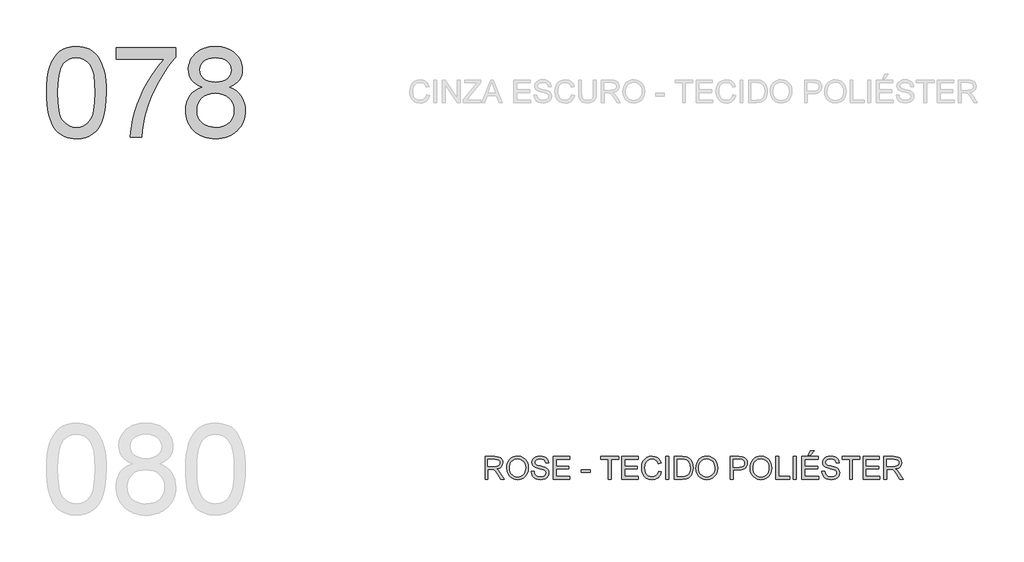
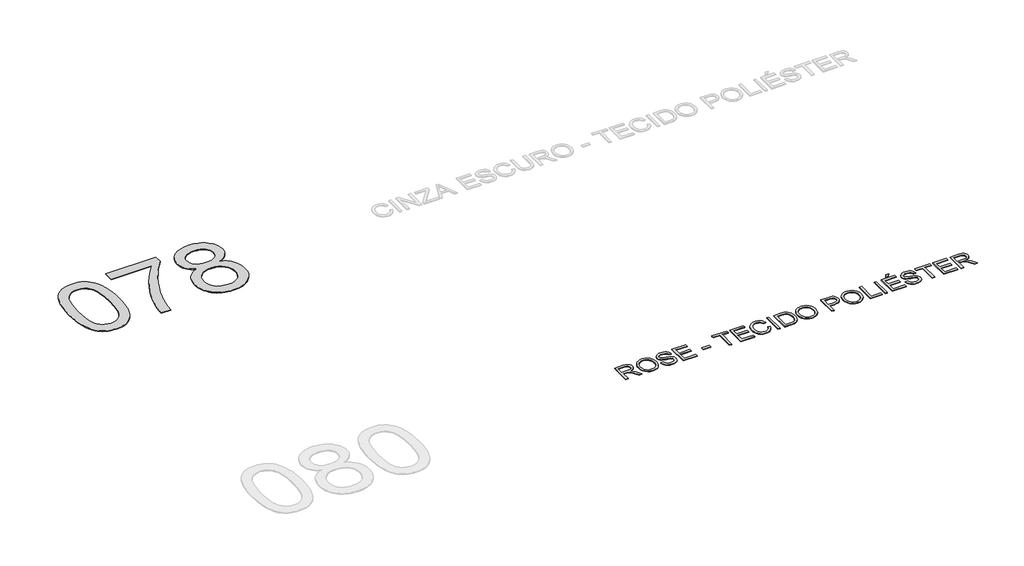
# One storey, part 4 of 67: 2 proxies.
"""IFC4 building model written with IfcOpenShell, lengths in millimetres."""

from ifc_helpers import new_model, si_unit, origin, origin_with_axes, place, context, project, spatial, polyline, outline, extrude, element, save

model = new_model("IFC4")

# Units and contexts
model_context = context("Model", 3, world=origin())
ifc_project = project(units=[si_unit("LENGTHUNIT", "METRE", prefix="MILLI")], contexts=[model_context])

# Site, building, storey
site = spatial("IfcSite", under=ifc_project)
building = spatial("IfcBuilding", under=site)
storey = spatial("IfcBuildingStorey", under=building, Name="Marelli - Linha COLAB - Planta Baixa", Elevation=0.0)

# Proxies
placement = place(None, origin())
element("IfcBuildingElementProxy", 1, Name="1200mm Arial", ObjectType="1200mm Arial", at=placement, inside=storey, context=model_context, shape_type="SweptSolid", body=[
    extrude(outline(polyline([(-25181.1313792, -104895.792664), (-25178.3630672, -104794.4319773), (-25170.0581311, -104702.8385576), (-25156.2165711, -104621.0124048), (-25136.838387, -104548.953519), (-25112.0063523, -104486.073289), (-25081.8032405, -104431.7831035), (-25046.2290516, -104386.0829627), (-25005.2837855, -104348.9728664), (-24958.8294866, -104320.2596767), (-24906.728199, -104299.7502555), (-24848.9799228, -104287.4446027), (-24785.584658, -104283.3427185), (-24737.9439396, -104285.7707396), (-24692.7312424, -104293.0548031), (-24649.9465664, -104305.194909), (-24609.5899115, -104322.1910572), (-24572.6361651, -104343.7581391), (-24540.0602144, -104369.6110463), (-24511.8620595, -104399.7497788), (-24488.0417003, -104434.1743365), (-24467.4035204, -104472.7467637), (-24448.7519032, -104515.3291046), (-24417.4083572, -104612.5235278), (-24405.4337983, -104669.6831928), (-24396.8805419, -104735.9479371), (-24391.7485881, -104811.3177609), (-24390.0379368, -104895.792664), (-24392.7786576, -104996.5095573), (-24401.0008202, -105087.6431245), (-24414.7044246, -105169.1933658), (-24433.8894706, -105241.1602811), (-24458.5283672, -105304.0681023), (-24488.5935233, -105358.4410612), (-24524.0849388, -105404.2791578), (-24565.0026137, -105441.5823921), (-24611.5120949, -105470.4887199), (-24663.7789294, -105491.1360968), (-24721.8031171, -105503.524523), (-24785.584658, -105507.6539984), (-24828.2589694, -105505.8605737), (-24868.5788361, -105500.4802995), (-24906.544258, -105491.5131759), (-24942.1552351, -105478.9592028), (-24975.4117675, -105462.8183803), (-25006.3138551, -105443.0907083), (-25034.8614979, -105419.7761868), (-25061.054696, -105392.8748159), (-25089.1976686, -105350.2786794), (-25113.5882449, -105302.0999336), (-25134.2264248, -105248.3385785), (-25151.1122084, -105188.9946142), (-25164.2455956, -105124.0680406), (-25173.6265865, -105053.5588577), (-25179.255181, -104977.4670655), (-25181.1313792, -104895.792664)]), holes=[polyline([(-25030.446914, -104895.4983584), (-25026.03233, -105026.4919399), (-25012.7885782, -105132.5247279), (-25002.8557643, -105176.1808245), (-24990.7156585, -105213.5967226), (-24976.3682607, -105244.7724225), (-24959.8135709, -105269.7079239), (-24922.4367602, -105307.884878), (-24880.9396711, -105335.1541309), (-24835.3223037, -105351.5156826), (-24785.584658, -105356.9695332), (-24735.8470122, -105351.4972885), (-24690.2296448, -105335.0805545), (-24648.7325558, -105307.7193311), (-24611.3557451, -105269.4136183), (-24594.8010553, -105244.418336), (-24580.4536575, -105213.2104465), (-24568.3135516, -105175.7899498), (-24558.3807378, -105132.1568459), (-24545.1369859, -105026.2528166), (-24540.722402, -104895.4983584), (-24544.9898331, -104767.9720648), (-24557.7921266, -104663.8062779), (-24567.3938467, -104620.4835744), (-24579.1292823, -104583.0009976), (-24592.9984335, -104551.3585475), (-24609.0013003, -104525.5562241), (-24645.7527116, -104485.5122689), (-24687.7280473, -104456.9094438), (-24734.9273073, -104439.7477487), (-24787.3504916, -104434.0271837), (-24836.8306199, -104439.067167), (-24881.6754351, -104454.187117), (-24921.8849372, -104479.3870337), (-24957.4591261, -104514.666917), (-24974.5656389, -104543.2145599), (-24989.3912833, -104577.2068562), (-25001.9360594, -104616.6438061), (-25012.199967, -104661.5254095), (-25025.8851772, -104767.6225769), (-25030.446914, -104895.4983584)])]), origin_with_axes(), (0.0, 0.0, 1.0), 10.0),
    extrude(outline(polyline([(-24258.1890297, -104452.8627418), (-24258.1890297, -104302.1782766), (-23467.0955873, -104302.1782766), (-23467.0955873, -104424.0207934), (-23523.6114588, -104490.5246611), (-23579.8514188, -104566.7222194), (-23635.8154673, -104652.6134682), (-23691.5036043, -104748.1984076), (-23743.8991975, -104849.3383651), (-23789.9856144, -104951.8946683), (-23829.7628552, -105055.8673172), (-23863.2309197, -105161.2563118), (-23883.1701238, -105237.7941609), (-23899.1362024, -105317.9004653), (-23911.1291555, -105401.5752251), (-23919.1489829, -105488.8184403), (-24069.8334482, -105488.8184403), (-24065.0969675, -105414.8189769), (-24053.5362758, -105333.4986619), (-24035.1513731, -105244.8574952), (-24009.9422594, -105148.8954767), (-23978.2032402, -105050.1651463), (-23940.2286213, -104953.2190435), (-23896.0184025, -104858.0571684), (-23845.5725839, -104764.679521), (-23791.1628368, -104675.8268221), (-23735.0608326, -104594.2397926), (-23677.2665711, -104519.9184325), (-23617.7800525, -104452.8627418), (-24258.1890297, -104452.8627418)])), origin_with_axes(), (0.0, 0.0, 1.0), 10.0),
    extrude(outline(polyline([(-23115.6947055, -104824.8650154), (-23159.0404016, -104806.7652212), (-23196.371227, -104785.1337599), (-23227.6871819, -104759.9706314), (-23252.9882661, -104731.2758358), (-23272.4952089, -104699.3252845), (-23286.4287394, -104664.3948891), (-23294.7888578, -104626.4846495), (-23297.5755639, -104585.5945657), (-23291.505511, -104524.1398784), (-23283.9179448, -104495.3301197), (-23273.2953522, -104467.7987509), (-23259.6377331, -104441.545772), (-23242.9450876, -104416.571183), (-23200.4547172, -104370.4571749), (-23175.1674285, -104350.0397242), (-23147.865986, -104332.3446002), (-23118.5503895, -104317.371803), (-23087.2206391, -104305.1213326), (-23018.5186765, -104288.787372), (-22941.7600982, -104283.3427185), (-22864.6336379, -104288.9161307), (-22795.4166405, -104305.6363674), (-22763.7741904, -104318.1765449), (-22734.109106, -104333.5034285), (-22706.4213873, -104351.6170182), (-22680.7110344, -104372.5173141), (-22637.4481118, -104419.5326331), (-22620.4519636, -104444.8613085), (-22606.5460242, -104471.4039944), (-22595.7302935, -104499.1606909), (-22588.0047716, -104528.1313981), (-22583.3694585, -104558.3161158), (-22581.8243541, -104589.7148441), (-22584.574272, -104629.160991), (-22592.8240257, -104665.9767817), (-22606.5736153, -104700.1622161), (-22625.8230407, -104731.7172942), (-22650.6642724, -104760.2189518), (-22681.189281, -104785.2441245), (-22717.3980664, -104806.7928124), (-22759.2906286, -104824.8650154), (-22709.764515, -104845.9354566), (-22666.5475776, -104872.6528865), (-22629.6398164, -104905.0173051), (-22599.0412315, -104943.0287122), (-22575.0277342, -104985.8409794), (-22557.8752362, -105032.607978), (-22547.5837374, -105083.3297081), (-22544.1532378, -105138.0061697), (-22545.854692, -105176.3670647), (-22550.9590547, -105213.1644613), (-22559.4663258, -105248.3983594), (-22571.3765054, -105282.068759), (-22586.6895935, -105314.1756601), (-22605.40559, -105344.7190628), (-22627.5244949, -105373.6989669), (-22653.0463083, -105401.1153726), (-22681.3456308, -105426.085363), (-22711.797063, -105447.7260214), (-22744.4006048, -105466.0373477), (-22779.1562563, -105481.019342), (-22816.0640175, -105492.6720042), (-22855.1238883, -105500.9953343), (-22896.3358688, -105505.9893324), (-22939.699959, -105507.6539984), (-22983.0640492, -105505.9824346), (-23024.2760297, -105500.9677432), (-23063.3359005, -105492.6099241), (-23100.2436617, -105480.9089774), (-23134.9993132, -105465.864903), (-23167.602855, -105447.4777011), (-23198.0542872, -105425.7473715), (-23226.3536096, -105400.6739142), (-23251.875423, -105373.1034579), (-23273.994328, -105343.8821312), (-23292.7103245, -105313.009934), (-23308.0234126, -105280.4868664), (-23319.9335922, -105246.3129283), (-23328.4408633, -105210.4881198), (-23333.545226, -105173.0124408), (-23335.2466802, -105133.8858913), (-23331.6782249, -105076.7170293), (-23320.9728588, -105024.4042096), (-23303.130582, -104976.9474322), (-23278.1513946, -104934.3466971), (-23246.5871194, -104897.3745566), (-23208.9895795, -104866.8035628), (-23165.3587748, -104842.6337157), (-23115.6947055, -104824.8650154)]), holes=[polyline([(-23146.8910987, -104590.0091496), (-23143.5525696, -104624.553269), (-23133.5369822, -104655.7864504), (-23116.8443367, -104683.7086938), (-23093.474633, -104708.3199993), (-23063.7221766, -104728.4063562), (-23027.8812732, -104742.753754), (-22985.9519228, -104751.3621927), (-22937.9341254, -104754.2316723), (-22891.1027474, -104751.3805868), (-22850.083905, -104742.8273304), (-22814.877598, -104728.5719031), (-22785.4838266, -104708.6143049), (-22762.3072609, -104684.5180342), (-22745.7525711, -104657.8465896), (-22735.8197573, -104628.5999709), (-22732.5088193, -104596.7781784), (-22735.9301219, -104563.714784), (-22746.1940295, -104533.3921106), (-22763.3005423, -104505.810158), (-22787.2496602, -104480.9689263), (-22817.3056192, -104460.4319139), (-22852.7326553, -104445.7626193), (-22893.5307686, -104436.9610426), (-22939.699959, -104434.0271837), (-22986.2278343, -104436.8966633), (-23027.2190856, -104445.5051019), (-23062.6737129, -104459.8524998), (-23092.5917162, -104479.9388567), (-23116.347696, -104504.0351274), (-23133.3162531, -104530.4122664), (-23143.4973873, -104559.0702739), (-23146.8910987, -104590.0091496)]), polyline([(-23184.562215, -105128.5883906), (-23182.9895195, -105157.6418712), (-23178.2714329, -105186.2354992), (-23159.3990865, -105242.0431979), (-23144.3986982, -105267.9328933), (-23124.5606616, -105290.7139859), (-23099.8849767, -105310.3864756), (-23070.3716437, -105326.9503624), (-23038.1819691, -105340.0837496), (-23005.4772597, -105349.4647405), (-22972.2575156, -105355.093335), (-22938.5227366, -105356.9695332), (-22884.0394131, -105353.0239988), (-22835.9572364, -105341.1873956), (-22794.2762063, -105321.4597236), (-22758.996323, -105293.8409828), (-22730.9269267, -105260.133795), (-22710.877358, -105222.140782), (-22698.8476167, -105179.8619437), (-22694.837703, -105133.2972801), (-22698.9763754, -105085.9876555), (-22711.3923928, -105042.9454621), (-22732.085755, -105004.1706998), (-22761.0564621, -104969.6633687), (-22797.2928387, -104941.336455), (-22839.7832091, -104921.1029453), (-22888.5275735, -104908.9628395), (-22943.5259317, -104904.9161375), (-22997.2091119, -104908.9076572), (-23044.6566922, -104920.8822161), (-23085.8686727, -104940.8398143), (-23120.8450534, -104968.7804519), (-23148.7213116, -105002.7175659), (-23168.6329246, -105040.6645937), (-23180.5798924, -105082.6215353), (-23184.562215, -105128.5883906)])]), origin_with_axes(), (0.0, 0.0, 1.0), 10.0),
])
element("IfcBuildingElementProxy", 2, Name="300mm Arial", ObjectType="300mm Arial", at=placement, inside=storey, context=model_context, shape_type="SweptSolid", body=[
    extrude(outline(polyline([(-19362.2049444, -110030.5663201), (-19362.2049444, -109729.1973896), (-19232.3426001, -109729.1973896), (-19197.4397958, -109731.2299376), (-19172.0467411, -109737.3275817), (-19153.4870944, -109748.5847708), (-19139.0845143, -109766.0959537), (-19129.8414792, -109787.8101885), (-19126.7604675, -109811.6765329), (-19131.8648301, -109841.3646099), (-19147.1779182, -109865.9759154), (-19158.7776973, -109876.0052983), (-19173.1595841, -109884.0205273), (-19210.2696804, -109894.0085235), (-19188.8589482, -109910.1217548), (-19158.3247426, -109948.8965171), (-19108.0720621, -110030.5663201), (-19151.8500195, -110030.5663201), (-19191.0662402, -109968.0999573), (-19219.3931538, -109926.750021), (-19239.2955698, -109907.2154871), (-19257.2114229, -109900.0417882), (-19279.0636135, -109898.717413), (-19324.5338281, -109898.717413), (-19324.5338281, -110030.5663201), (-19362.2049444, -110030.5663201)]), holes=[polyline([(-19324.5338281, -109861.0462967), (-19240.2152748, -109861.0462967), (-19215.9994424, -109859.7127245), (-19197.2098695, -109855.7120078), (-19183.0648068, -109848.7774322), (-19172.782505, -109838.6422832), (-19166.5193141, -109826.3826157), (-19164.4315838, -109813.0744845), (-19168.4139064, -109794.6987789), (-19180.3608741, -109779.8915286), (-19200.9162806, -109770.1242616), (-19230.7239193, -109766.8685059), (-19324.5338281, -109766.8685059), (-19324.5338281, -109861.0462967)])]), origin_with_axes(), (0.0, 0.0, 1.0), 10.0),
    extrude(outline(polyline([(-19074.9626825, -109883.8549804), (-19072.4518879, -109848.5061192), (-19064.9195041, -109817.213157), (-19052.365531, -109789.9760937), (-19034.7899687, -109766.7949295), (-19013.2458793, -109748.2858666), (-18988.7863252, -109735.0651074), (-18961.4113062, -109727.1326519), (-18931.1208224, -109724.4885001), (-18891.591902, -109729.454907), (-18856.1464718, -109744.3541278), (-18826.7159122, -109768.1376988), (-18805.2316037, -109799.7571563), (-18792.0982164, -109837.68579), (-18787.7204207, -109880.3968896), (-18792.3281427, -109923.6782064), (-18806.1513087, -109962.140269), (-18828.4265635, -109993.8149087), (-18858.390552, -110016.733957), (-18893.5324796, -110030.6398965), (-18931.3415516, -110035.2752096), (-18971.4774773, -110030.1524528), (-19007.1252426, -110014.7841825), (-19036.4822258, -109990.5591531), (-19057.7458052, -109958.8661192), (-19070.6584632, -109922.3998164), (-19074.9626825, -109883.8549804)]), holes=[polyline([(-19037.2915662, -109884.2228624), (-19035.4084703, -109909.1974513), (-19029.7591824, -109931.3669401), (-19020.3437026, -109950.7313286), (-19007.1620308, -109967.2906169), (-18991.1384707, -109980.5527628), (-18973.1973256, -109990.0257242), (-18953.3385957, -109995.709501), (-18931.5622808, -109997.6040933), (-18909.4134854, -109995.6911069), (-18889.3202307, -109989.9521478), (-18871.2825166, -109980.3872159), (-18855.3003432, -109966.9963113), (-18842.2152405, -109950.0875351), (-18832.8687386, -109929.9689885), (-18827.2608374, -109906.6406715), (-18825.391537, -109880.102584), (-18828.5921104, -109846.7540812), (-18838.1938304, -109817.9305269), (-18853.9483769, -109794.358488), (-18875.6074293, -109776.7645316), (-18901.7362481, -109765.8108452), (-18930.9000932, -109762.1596164), (-18951.9199507, -109763.9185522), (-18971.422295, -109769.1953595), (-18989.407126, -109777.9900385), (-19005.8744438, -109790.302589), (-19019.6194349, -109806.7262208), (-19029.4372856, -109827.8541437), (-19035.3279961, -109853.6863575), (-19037.2915662, -109884.2228624)])]), origin_with_axes(), (0.0, 0.0, 1.0), 10.0),
    extrude(outline(polyline([(-18750.0493044, -109926.9707502), (-18712.3781881, -109926.9707502), (-18708.0555746, -109947.8756446), (-18700.2380822, -109964.6786547), (-18688.0427941, -109978.0143771), (-18670.5867934, -109988.517408), (-18649.2496377, -109995.332422), (-18625.4108844, -109997.6040933), (-18604.4232166, -109995.884245), (-18586.0475109, -109990.7247), (-18571.1574872, -109982.5577197), (-18560.6268651, -109971.8155654), (-18554.3636741, -109959.4823215), (-18552.2759438, -109946.5420724), (-18553.8394423, -109933.932917), (-18558.5299377, -109923.0344129), (-18568.0580814, -109913.7361954), (-18584.1345246, -109905.9279001), (-18638.98573, -109891.5437141), (-18674.9921803, -109882.0247675), (-18698.0307903, -109872.9656733), (-18716.783575, -109860.2921386), (-18730.0733121, -109844.9330653), (-18737.991972, -109827.2195472), (-18740.6315253, -109807.4826782), (-18737.3665726, -109785.4189555), (-18727.5717145, -109764.845155), (-18711.5044683, -109747.4075484), (-18689.4223516, -109734.7524077), (-18662.9164538, -109727.054477), (-18633.5778647, -109724.4885001), (-18601.7928603, -109727.1740386), (-18573.9809815, -109735.2306543), (-18551.1355096, -109748.4928003), (-18534.249726, -109766.7949295), (-18523.5627541, -109788.9966079), (-18519.313717, -109813.9574013), (-18556.9848333, -109813.9574013), (-18563.9010148, -109791.4798114), (-18578.321989, -109775.2562154), (-18600.8547612, -109765.4337661), (-18632.1063367, -109762.1596164), (-18664.0936762, -109765.3969779), (-18686.0378372, -109775.1090626), (-18698.7297661, -109789.4012781), (-18702.960409, -109806.3790322), (-18699.9621707, -109820.8551887), (-18690.967456, -109832.4986539), (-18669.7038766, -109842.9097143), (-18629.4575864, -109853.541504), (-18587.9237091, -109863.6398648), (-18562.7973688, -109872.4506385), (-18541.3222574, -109886.1174547), (-18526.3402631, -109902.9848441), (-18517.5386864, -109922.868866), (-18514.6048275, -109945.5855792), (-18517.9801448, -109968.8081301), (-18528.1060967, -109990.6511236), (-18544.568816, -110009.4498935), (-18566.9544354, -110023.539774), (-18593.8742004, -110032.3413507), (-18623.9393564, -110035.2752096), (-18660.8471176, -110032.1114244), (-18691.2249734, -110022.620069), (-18715.4224116, -110006.764355), (-18733.7889202, -109984.5074943), (-18745.5795381, -109957.3945912), (-18750.0493044, -109926.9707502)])), origin_with_axes(), (0.0, 0.0, 1.0), 10.0),
    extrude(outline(polyline([(-18458.098153, -110030.5663201), (-18458.098153, -109729.1973896), (-18241.4892343, -109729.1973896), (-18241.4892343, -109766.8685059), (-18420.4270367, -109766.8685059), (-18420.4270367, -109856.3374072), (-18250.9070133, -109856.3374072), (-18250.9070133, -109894.0085235), (-18420.4270367, -109894.0085235), (-18420.4270367, -109992.8952038), (-18236.7803447, -109992.8952038), (-18236.7803447, -110030.5663201), (-18458.098153, -110030.5663201)])), origin_with_axes(), (0.0, 0.0, 1.0), 10.0),
    extrude(outline(polyline([(-18086.0958795, -109941.0974188), (-18086.0958795, -109903.4263025), (-17968.373641, -109903.4263025), (-17968.373641, -109941.0974188), (-18086.0958795, -109941.0974188)])), origin_with_axes(), (0.0, 0.0, 1.0), 10.0),
    extrude(outline(polyline([(-17728.2202746, -110030.5663201), (-17728.2202746, -109766.8685059), (-17827.1069549, -109766.8685059), (-17827.1069549, -109729.1973896), (-17591.662478, -109729.1973896), (-17591.662478, -109766.8685059), (-17690.5491583, -109766.8685059), (-17690.5491583, -110030.5663201), (-17728.2202746, -110030.5663201)])), origin_with_axes(), (0.0, 0.0, 1.0), 10.0),
    extrude(outline(polyline([(-17549.2824721, -110030.5663201), (-17549.2824721, -109729.1973896), (-17332.6735534, -109729.1973896), (-17332.6735534, -109766.8685059), (-17511.6113558, -109766.8685059), (-17511.6113558, -109856.3374072), (-17342.0913324, -109856.3374072), (-17342.0913324, -109894.0085235), (-17511.6113558, -109894.0085235), (-17511.6113558, -109992.8952038), (-17327.9646638, -109992.8952038), (-17327.9646638, -110030.5663201), (-17549.2824721, -110030.5663201)])), origin_with_axes(), (0.0, 0.0, 1.0), 10.0),
    extrude(outline(polyline([(-17059.5579602, -109923.4390831), (-17021.8868438, -109933.1511677), (-17029.3410528, -109956.5783531), (-17039.2692681, -109977.0486868), (-17051.6714899, -109994.5621691), (-17066.5477181, -110009.1187997), (-17083.5622603, -110020.5622291), (-17102.3794244, -110028.7361071), (-17122.9992102, -110033.640434), (-17145.4216178, -110035.2752096), (-17189.1168018, -110030.3271968), (-17223.817271, -110015.4831583), (-17250.4151393, -109991.2581289), (-17269.8025204, -109958.1671434), (-17281.6391236, -109919.2636224), (-17285.584658, -109877.6009865), (-17281.1240888, -109833.6574821), (-17267.7423812, -109795.7104543), (-17246.1385111, -109764.9647166), (-17217.0114541, -109742.6250824), (-17182.4673347, -109729.0226457), (-17144.6122774, -109724.4885001), (-17103.3083264, -109730.3562179), (-17085.3395902, -109737.6908652), (-17069.1596802, -109747.9593714), (-17055.0353109, -109760.8904235), (-17043.2331966, -109776.2127086), (-17026.5957334, -109814.0309777), (-17064.2668497, -109823.0072984), (-17077.3266605, -109795.5357104), (-17095.1689373, -109776.6909552), (-17118.0144092, -109765.7924511), (-17146.0838054, -109762.1596164), (-17178.4390269, -109766.1879242), (-17205.018501, -109778.2728478), (-17225.1876314, -109797.1451941), (-17238.3118216, -109821.5357704), (-17245.5131117, -109849.1085259), (-17247.9135417, -109877.5274101), (-17245.0716533, -109912.3290468), (-17236.545988, -109942.421794), (-17222.0146492, -109966.6560205), (-17201.1557401, -109983.8820949), (-17176.1489615, -109994.1735937), (-17149.1740142, -109997.6040933), (-17117.7293006, -109992.931992), (-17091.5269055, -109978.9156879), (-17071.7440512, -109955.702334), (-17059.5579602, -109923.4390831)])), origin_with_axes(), (0.0, 0.0, 1.0), 10.0),
    extrude(outline(polyline([(-16965.3801694, -110030.5663201), (-16965.3801694, -109729.1973896), (-16927.7090531, -109729.1973896), (-16927.7090531, -110030.5663201), (-16965.3801694, -110030.5663201)])), origin_with_axes(), (0.0, 0.0, 1.0), 10.0),
    extrude(outline(polyline([(-16852.3668205, -110030.5663201), (-16852.3668205, -109729.1973896), (-16748.4033686, -109729.1973896), (-16694.6190209, -109733.5383972), (-16670.5963267, -109741.9077126), (-16650.3260287, -109755.0962821), (-16629.4855137, -109778.0521186), (-16614.6414752, -109806.5997614), (-16605.757125, -109840.1873876), (-16602.7956749, -109878.2631741), (-16604.8006318, -109910.6091985), (-16610.8155024, -109939.0740679), (-16619.9757641, -109963.3082943), (-16631.4168942, -109982.9623899), (-16644.5870696, -109998.477813), (-16658.9344674, -110010.2960221), (-16675.4063837, -110019.0608107), (-16694.9501147, -110025.4159721), (-16743.4001735, -110030.5663201), (-16852.3668205, -110030.5663201)]), holes=[polyline([(-16814.6957042, -109992.8952038), (-16748.0354866, -109992.8952038), (-16720.4627311, -109991.5340404), (-16699.5486397, -109987.4505502), (-16683.7665021, -109980.8838566), (-16671.589608, -109972.0730828), (-16658.5022061, -109955.7667134), (-16648.6705597, -109934.6594839), (-16642.5177334, -109908.6594239), (-16640.4667912, -109877.6745629), (-16644.485902, -109836.6189322), (-16656.5432344, -109806.3054558), (-16674.3579201, -109785.4833349), (-16695.6490905, -109772.9017706), (-16717.31734, -109768.3768221), (-16749.0655562, -109766.8685059), (-16814.6957042, -109766.8685059), (-16814.6957042, -109992.8952038)])]), origin_with_axes(), (0.0, 0.0, 1.0), 10.0),
    extrude(outline(polyline([(-16565.1245586, -109883.8549804), (-16562.613764, -109848.5061192), (-16555.0813802, -109817.213157), (-16542.5274071, -109789.9760937), (-16524.9518448, -109766.7949295), (-16503.4077554, -109748.2858666), (-16478.9482013, -109735.0651074), (-16451.5731823, -109727.1326519), (-16421.2826985, -109724.4885001), (-16381.7537781, -109729.454907), (-16346.3083479, -109744.3541278), (-16316.8777883, -109768.1376988), (-16295.3934798, -109799.7571563), (-16282.2600925, -109837.68579), (-16277.8822968, -109880.3968896), (-16282.4900188, -109923.6782064), (-16296.3131848, -109962.140269), (-16318.5884396, -109993.8149087), (-16348.5524281, -110016.733957), (-16383.6943557, -110030.6398965), (-16421.5034277, -110035.2752096), (-16461.6393534, -110030.1524528), (-16497.2871187, -110014.7841825), (-16526.6441019, -109990.5591531), (-16547.9076813, -109958.8661192), (-16560.8203393, -109922.3998164), (-16565.1245586, -109883.8549804)]), holes=[polyline([(-16527.4534423, -109884.2228624), (-16525.5703464, -109909.1974513), (-16519.9210585, -109931.3669401), (-16510.5055787, -109950.7313286), (-16497.3239069, -109967.2906169), (-16481.3003468, -109980.5527628), (-16463.3592017, -109990.0257242), (-16443.5004718, -109995.709501), (-16421.7241569, -109997.6040933), (-16399.5753615, -109995.6911069), (-16379.4821068, -109989.9521478), (-16361.4443927, -109980.3872159), (-16345.4622193, -109966.9963113), (-16332.3771166, -109950.0875351), (-16323.0306147, -109929.9689885), (-16317.4227135, -109906.6406715), (-16315.5534131, -109880.102584), (-16318.7539865, -109846.7540812), (-16328.3557065, -109817.9305269), (-16344.110253, -109794.358488), (-16365.7693054, -109776.7645316), (-16391.8981242, -109765.8108452), (-16421.0619693, -109762.1596164), (-16442.0818268, -109763.9185522), (-16461.5841711, -109769.1953595), (-16479.5690021, -109777.9900385), (-16496.0363199, -109790.302589), (-16509.781311, -109806.7262208), (-16519.5991617, -109827.8541437), (-16525.4898722, -109853.6863575), (-16527.4534423, -109884.2228624)])]), origin_with_axes(), (0.0, 0.0, 1.0), 10.0),
    extrude(outline(polyline([(-16108.3622734, -110030.5663201), (-16108.3622734, -109729.1973896), (-15996.6732997, -109729.1973896), (-15951.6445435, -109732.0668692), (-15931.5673836, -109737.4287493), (-15915.040285, -109746.1567496), (-15901.7321538, -109758.6463433), (-15891.3118963, -109775.2930036), (-15884.5796558, -109794.9287051), (-15882.3355756, -109816.3854225), (-15883.8507896, -109834.8852883), (-15888.3964315, -109851.9044291), (-15895.9725013, -109867.4428449), (-15906.5789991, -109881.5005356), (-15921.1402283, -109893.1531978), (-15940.5804925, -109901.476528), (-15964.8997916, -109906.470526), (-15994.0981257, -109908.1351921), (-16070.6911571, -109908.1351921), (-16070.6911571, -110030.5663201), (-16108.3622734, -110030.5663201)]), holes=[polyline([(-16070.6911571, -109870.4640758), (-15991.8908338, -109870.4640758), (-15958.4871486, -109867.005985), (-15936.4142289, -109856.6317127), (-15924.1085761, -109839.9850525), (-15920.0066919, -109817.7097977), (-15922.425516, -109800.7872259), (-15929.6819884, -109786.5134045), (-15940.8747981, -109775.7712502), (-15955.1026342, -109769.4436799), (-15992.7737505, -109766.8685059), (-16070.6911571, -109766.8685059), (-16070.6911571, -109870.4640758)])]), origin_with_axes(), (0.0, 0.0, 1.0), 10.0),
    extrude(outline(polyline([(-15844.6644593, -109883.8549804), (-15842.1536647, -109848.5061192), (-15834.6212808, -109817.213157), (-15822.0673077, -109789.9760937), (-15804.4917454, -109766.7949295), (-15782.9476561, -109748.2858666), (-15758.4881019, -109735.0651074), (-15731.1130829, -109727.1326519), (-15700.8225992, -109724.4885001), (-15661.2936788, -109729.454907), (-15625.8482486, -109744.3541278), (-15596.4176889, -109768.1376988), (-15574.9333804, -109799.7571563), (-15561.7999932, -109837.68579), (-15557.4221974, -109880.3968896), (-15562.0299194, -109923.6782064), (-15575.8530854, -109962.140269), (-15598.1283402, -109993.8149087), (-15628.0923287, -110016.733957), (-15663.2342563, -110030.6398965), (-15701.0433284, -110035.2752096), (-15741.179254, -110030.1524528), (-15776.8270194, -110014.7841825), (-15806.1840026, -109990.5591531), (-15827.4475819, -109958.8661192), (-15840.3602399, -109922.3998164), (-15844.6644593, -109883.8549804)]), holes=[polyline([(-15806.993343, -109884.2228624), (-15805.110247, -109909.1974513), (-15799.4609591, -109931.3669401), (-15790.0454793, -109950.7313286), (-15776.8638076, -109967.2906169), (-15760.8402474, -109980.5527628), (-15742.8991024, -109990.0257242), (-15723.0403724, -109995.709501), (-15701.2640576, -109997.6040933), (-15679.1152622, -109995.6911069), (-15659.0220075, -109989.9521478), (-15640.9842934, -109980.3872159), (-15625.00212, -109966.9963113), (-15611.9170172, -109950.0875351), (-15602.5705153, -109929.9689885), (-15596.9626141, -109906.6406715), (-15595.0933138, -109880.102584), (-15598.2938871, -109846.7540812), (-15607.8956072, -109817.9305269), (-15623.6501536, -109794.358488), (-15645.3092061, -109776.7645316), (-15671.4380248, -109765.8108452), (-15700.60187, -109762.1596164), (-15721.6217275, -109763.9185522), (-15741.1240717, -109769.1953595), (-15759.1089028, -109777.9900385), (-15775.5762206, -109790.302589), (-15789.3212116, -109806.7262208), (-15799.1390624, -109827.8541437), (-15805.0297728, -109853.6863575), (-15806.993343, -109884.2228624)])]), origin_with_axes(), (0.0, 0.0, 1.0), 10.0),
    extrude(outline(polyline([(-15505.6244125, -110030.5663201), (-15505.6244125, -109729.1973896), (-15467.9532962, -109729.1973896), (-15467.9532962, -109992.8952038), (-15317.268831, -109992.8952038), (-15317.268831, -110030.5663201), (-15505.6244125, -110030.5663201)])), origin_with_axes(), (0.0, 0.0, 1.0), 10.0),
    extrude(outline(polyline([(-15270.1799356, -110030.5663201), (-15270.1799356, -109729.1973896), (-15232.5088193, -109729.1973896), (-15232.5088193, -110030.5663201), (-15270.1799356, -110030.5663201)])), origin_with_axes(), (0.0, 0.0, 1.0), 10.0),
    extrude(outline(polyline([(-15072.406575, -109710.3618315), (-15044.1532378, -109653.855157), (-14997.0643424, -109653.855157), (-15044.1532378, -109710.3618315), (-15072.406575, -109710.3618315)])), origin_with_axes(), (0.0, 0.0, 1.0), 10.0),
    extrude(outline(polyline([(-15157.1665867, -110030.5663201), (-15157.1665867, -109729.1973896), (-14940.5576679, -109729.1973896), (-14940.5576679, -109766.8685059), (-15119.4954704, -109766.8685059), (-15119.4954704, -109856.3374072), (-14949.975447, -109856.3374072), (-14949.975447, -109894.0085235), (-15119.4954704, -109894.0085235), (-15119.4954704, -109992.8952038), (-14935.8487784, -109992.8952038), (-14935.8487784, -110030.5663201), (-15157.1665867, -110030.5663201)])), origin_with_axes(), (0.0, 0.0, 1.0), 10.0),
    extrude(outline(polyline([(-14893.4687726, -109926.9707502), (-14855.7976562, -109926.9707502), (-14851.4750428, -109947.8756446), (-14843.6575504, -109964.6786547), (-14831.4622623, -109978.0143771), (-14814.0062616, -109988.517408), (-14792.6691059, -109995.332422), (-14768.8303526, -109997.6040933), (-14747.8426848, -109995.884245), (-14729.4669791, -109990.7247), (-14714.5769553, -109982.5577197), (-14704.0463332, -109971.8155654), (-14697.7831423, -109959.4823215), (-14695.6954119, -109946.5420724), (-14697.2589104, -109933.932917), (-14701.9494059, -109923.0344129), (-14711.4775495, -109913.7361954), (-14727.5539927, -109905.9279001), (-14782.4051982, -109891.5437141), (-14818.4116485, -109882.0247675), (-14841.4502584, -109872.9656733), (-14860.2030431, -109860.2921386), (-14873.4927802, -109844.9330653), (-14881.4114402, -109827.2195472), (-14884.0509935, -109807.4826782), (-14880.7860408, -109785.4189555), (-14870.9911826, -109764.845155), (-14854.9239365, -109747.4075484), (-14832.8418197, -109734.7524077), (-14806.335922, -109727.054477), (-14776.9973329, -109724.4885001), (-14745.2123285, -109727.1740386), (-14717.4004497, -109735.2306543), (-14694.5549778, -109748.4928003), (-14677.6691942, -109766.7949295), (-14666.9822222, -109788.9966079), (-14662.7331852, -109813.9574013), (-14700.4043015, -109813.9574013), (-14707.320483, -109791.4798114), (-14721.7414572, -109775.2562154), (-14744.2742294, -109765.4337661), (-14775.5258049, -109762.1596164), (-14807.5131444, -109765.3969779), (-14829.4573054, -109775.1090626), (-14842.1492342, -109789.4012781), (-14846.3798772, -109806.3790322), (-14843.3816389, -109820.8551887), (-14834.3869241, -109832.4986539), (-14813.1233448, -109842.9097143), (-14772.8770545, -109853.541504), (-14731.3431773, -109863.6398648), (-14706.216837, -109872.4506385), (-14684.7417255, -109886.1174547), (-14669.7597313, -109902.9848441), (-14660.9581546, -109922.868866), (-14658.0242956, -109945.5855792), (-14661.3996129, -109968.8081301), (-14671.5255649, -109990.6511236), (-14687.9882841, -110009.4498935), (-14710.3739036, -110023.539774), (-14737.2936685, -110032.3413507), (-14767.3588246, -110035.2752096), (-14804.2665858, -110032.1114244), (-14834.6444415, -110022.620069), (-14858.8418798, -110006.764355), (-14877.2083884, -109984.5074943), (-14888.9990063, -109957.3945912), (-14893.4687726, -109926.9707502)])), origin_with_axes(), (0.0, 0.0, 1.0), 10.0),
    extrude(outline(polyline([(-14526.1753886, -110030.5663201), (-14526.1753886, -109766.8685059), (-14625.0620689, -109766.8685059), (-14625.0620689, -109729.1973896), (-14389.617592, -109729.1973896), (-14389.617592, -109766.8685059), (-14488.5042723, -109766.8685059), (-14488.5042723, -110030.5663201), (-14526.1753886, -110030.5663201)])), origin_with_axes(), (0.0, 0.0, 1.0), 10.0),
    extrude(outline(polyline([(-14347.2375861, -110030.5663201), (-14347.2375861, -109729.1973896), (-14130.6286674, -109729.1973896), (-14130.6286674, -109766.8685059), (-14309.5664698, -109766.8685059), (-14309.5664698, -109856.3374072), (-14140.0464464, -109856.3374072), (-14140.0464464, -109894.0085235), (-14309.5664698, -109894.0085235), (-14309.5664698, -109992.8952038), (-14125.9197778, -109992.8952038), (-14125.9197778, -110030.5663201), (-14347.2375861, -110030.5663201)])), origin_with_axes(), (0.0, 0.0, 1.0), 10.0),
    extrude(outline(polyline([(-14069.4131034, -110030.5663201), (-14069.4131034, -109729.1973896), (-13939.5507591, -109729.1973896), (-13904.6479548, -109731.2299376), (-13879.2549, -109737.3275817), (-13860.6952534, -109748.5847708), (-13846.2926733, -109766.0959537), (-13837.0496382, -109787.8101885), (-13833.9686264, -109811.6765329), (-13839.0729891, -109841.3646099), (-13854.3860772, -109865.9759154), (-13865.9858563, -109876.0052983), (-13880.3677431, -109884.0205273), (-13917.4778393, -109894.0085235), (-13896.0671072, -109910.1217548), (-13865.5329016, -109948.8965171), (-13815.2802211, -110030.5663201), (-13859.0581785, -110030.5663201), (-13898.2743992, -109968.0999573), (-13926.6013128, -109926.750021), (-13946.5037288, -109907.2154871), (-13964.4195819, -109900.0417882), (-13986.2717724, -109898.717413), (-14031.7419871, -109898.717413), (-14031.7419871, -110030.5663201), (-14069.4131034, -110030.5663201)]), holes=[polyline([(-14031.7419871, -109861.0462967), (-13947.4234338, -109861.0462967), (-13923.2076014, -109859.7127245), (-13904.4180285, -109855.7120078), (-13890.2729658, -109848.7774322), (-13879.990664, -109838.6422832), (-13873.7274731, -109826.3826157), (-13871.6397427, -109813.0744845), (-13875.6220653, -109794.6987789), (-13887.5690331, -109779.8915286), (-13908.1244396, -109770.1242616), (-13937.9320783, -109766.8685059), (-14031.7419871, -109766.8685059), (-14031.7419871, -109861.0462967)])]), origin_with_axes(), (0.0, 0.0, 1.0), 10.0),
])

save(model, "model.ifc")
